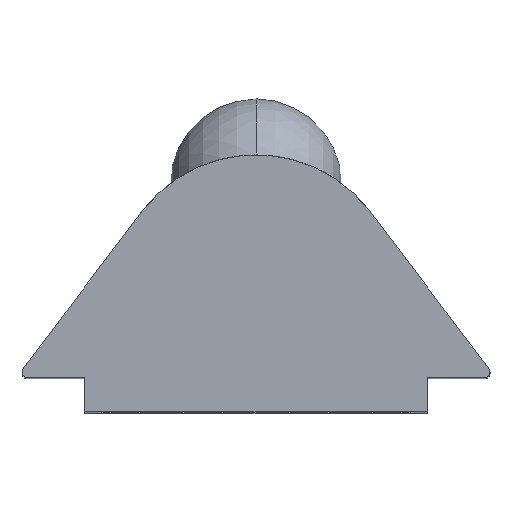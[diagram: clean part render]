
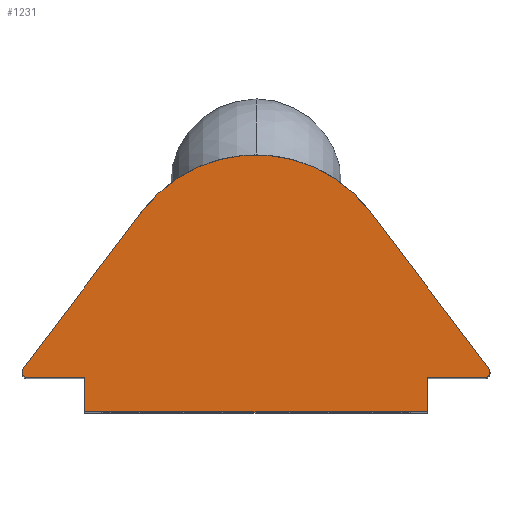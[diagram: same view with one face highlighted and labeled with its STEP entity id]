
A CAD part, top view. The second image highlights one B-rep face of the part: STEP entity #1231.
In plain terms, the highlighted planar face has unit normal (0, 0, 1).
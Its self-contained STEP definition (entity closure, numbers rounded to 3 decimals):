
#14 = CARTESIAN_POINT ( 'NONE',  ( 3.999, 0.7, 6.75 ) ) ;
#20 = VECTOR ( 'NONE', #431, 1000. ) ;
#36 = ORIENTED_EDGE ( 'NONE', *, *, #580, .F. ) ;
#78 = VERTEX_POINT ( 'NONE', #2494 ) ;
#103 = CARTESIAN_POINT ( 'NONE',  ( -2.958, 2.24, 6.75 ) ) ;
#115 = CARTESIAN_POINT ( 'NONE',  ( -3.999, 0.7, 6.75 ) ) ;
#131 = EDGE_CURVE ( 'NONE', #1171, #1182, #438, .T. ) ;
#203 = EDGE_CURVE ( 'NONE', #661, #693, #1131, .T. ) ;
#208 = DIRECTION ( 'NONE',  ( 1., 0., 0. ) ) ;
#234 = DIRECTION ( 'NONE',  ( 1., 0., 0. ) ) ;
#275 = VERTEX_POINT ( 'NONE', #1570 ) ;
#431 = DIRECTION ( 'NONE',  ( -1., 0., 0. ) ) ;
#433 = AXIS2_PLACEMENT_3D ( 'NONE', #1756, #714, #464 ) ;
#438 = LINE ( 'NONE', #2130, #1039 ) ;
#459 = DIRECTION ( 'NONE',  ( 1., 0., 0. ) ) ;
#464 = DIRECTION ( 'NONE',  ( 1., 0., 0. ) ) ;
#473 = DIRECTION ( 'NONE',  ( 0., 0., 1. ) ) ;
#526 = CARTESIAN_POINT ( 'NONE',  ( 3., 0., 6.75 ) ) ;
#531 = DIRECTION ( 'NONE',  ( 0., 1., 0. ) ) ;
#535 = LINE ( 'NONE', #1598, #2722 ) ;
#545 = DIRECTION ( 'NONE',  ( 1., 0., 0. ) ) ;
#557 = CARTESIAN_POINT ( 'NONE',  ( -3., 0., 6.75 ) ) ;
#567 = VECTOR ( 'NONE', #531, 1000. ) ;
#580 = EDGE_CURVE ( 'NONE', #1171, #2307, #1899, .T. ) ;
#592 = VERTEX_POINT ( 'NONE', #2515 ) ;
#631 = ORIENTED_EDGE ( 'NONE', *, *, #131, .T. ) ;
#661 = VERTEX_POINT ( 'NONE', #946 ) ;
#693 = VERTEX_POINT ( 'NONE', #1313 ) ;
#701 = CARTESIAN_POINT ( 'NONE',  ( 0., 0.6, 6.75 ) ) ;
#714 = DIRECTION ( 'NONE',  ( 0., 0., 1. ) ) ;
#785 = LINE ( 'NONE', #701, #20 ) ;
#806 = CARTESIAN_POINT ( 'NONE',  ( -3.999, 0.6, 6.75 ) ) ;
#816 = LINE ( 'NONE', #2666, #567 ) ;
#877 = VERTEX_POINT ( 'NONE', #2038 ) ;
#887 = EDGE_CURVE ( 'NONE', #2307, #78, #816, .T. ) ;
#905 = AXIS2_PLACEMENT_3D ( 'NONE', #14, #473, #234 ) ;
#908 = ORIENTED_EDGE ( 'NONE', *, *, #1493, .T. ) ;
#920 = VECTOR ( 'NONE', #1398, 1000. ) ;
#946 = CARTESIAN_POINT ( 'NONE',  ( 3.999, 0.6, 6.75 ) ) ;
#958 = PLANE ( 'NONE',  #2145 ) ;
#981 = EDGE_CURVE ( 'NONE', #693, #592, #535, .T. ) ;
#1039 = VECTOR ( 'NONE', #2303, 1000. ) ;
#1058 = DIRECTION ( 'NONE',  ( -1., 0., 0. ) ) ;
#1066 = EDGE_CURVE ( 'NONE', #1182, #661, #2138, .T. ) ;
#1116 = VECTOR ( 'NONE', #1058, 1000. ) ;
#1120 = CARTESIAN_POINT ( 'NONE',  ( 0., 0.6, 6.75 ) ) ;
#1121 = LINE ( 'NONE', #103, #920 ) ;
#1131 = CIRCLE ( 'NONE', #905, 0.1 ) ;
#1171 = VERTEX_POINT ( 'NONE', #526 ) ;
#1182 = VERTEX_POINT ( 'NONE', #1409 ) ;
#1214 = EDGE_CURVE ( 'NONE', #877, #275, #1121, .T. ) ;
#1231 = ADVANCED_FACE ( 'NONE', ( #1451 ), #958, .T. ) ;
#1265 = CARTESIAN_POINT ( 'NONE',  ( 0., 0., 6.75 ) ) ;
#1284 = DIRECTION ( 'NONE',  ( 0., 0., 1. ) ) ;
#1313 = CARTESIAN_POINT ( 'NONE',  ( 4.079, 0.76, 6.75 ) ) ;
#1351 = CIRCLE ( 'NONE', #2390, 2.509 ) ;
#1380 = DIRECTION ( 'NONE',  ( 0., 0., 1. ) ) ;
#1398 = DIRECTION ( 'NONE',  ( 0.604, 0.797, 0. ) ) ;
#1405 = DIRECTION ( 'NONE',  ( -0.604, 0.797, 0. ) ) ;
#1409 = CARTESIAN_POINT ( 'NONE',  ( 3., 0.6, 6.75 ) ) ;
#1451 = FACE_OUTER_BOUND ( 'NONE', #2191, .T. ) ;
#1466 = VERTEX_POINT ( 'NONE', #1551 ) ;
#1493 = EDGE_CURVE ( 'NONE', #1466, #2557, #1917, .T. ) ;
#1496 = ORIENTED_EDGE ( 'NONE', *, *, #981, .T. ) ;
#1551 = CARTESIAN_POINT ( 'NONE',  ( -4.099, 0.7, 6.75 ) ) ;
#1570 = CARTESIAN_POINT ( 'NONE',  ( -2., 3.506, 6.75 ) ) ;
#1598 = CARTESIAN_POINT ( 'NONE',  ( 2.958, 2.24, 6.75 ) ) ;
#1605 = DIRECTION ( 'NONE',  ( 1., 0., 0. ) ) ;
#1624 = DIRECTION ( 'NONE',  ( 0., 0., 1. ) ) ;
#1639 = ORIENTED_EDGE ( 'NONE', *, *, #887, .F. ) ;
#1705 = ORIENTED_EDGE ( 'NONE', *, *, #2298, .T. ) ;
#1709 = CIRCLE ( 'NONE', #1891, 0.1 ) ;
#1750 = EDGE_CURVE ( 'NONE', #78, #2557, #785, .T. ) ;
#1756 = CARTESIAN_POINT ( 'NONE',  ( -3.999, 0.7, 6.75 ) ) ;
#1814 = VECTOR ( 'NONE', #459, 1000. ) ;
#1874 = ORIENTED_EDGE ( 'NONE', *, *, #203, .T. ) ;
#1891 = AXIS2_PLACEMENT_3D ( 'NONE', #115, #1624, #1605 ) ;
#1899 = LINE ( 'NONE', #1265, #1116 ) ;
#1917 = CIRCLE ( 'NONE', #433, 0.1 ) ;
#2038 = CARTESIAN_POINT ( 'NONE',  ( -4.079, 0.76, 6.75 ) ) ;
#2067 = ORIENTED_EDGE ( 'NONE', *, *, #1214, .F. ) ;
#2100 = CARTESIAN_POINT ( 'NONE',  ( 0., 1.991, 6.75 ) ) ;
#2130 = CARTESIAN_POINT ( 'NONE',  ( 3., 0., 6.75 ) ) ;
#2138 = LINE ( 'NONE', #1120, #1814 ) ;
#2145 = AXIS2_PLACEMENT_3D ( 'NONE', #2632, #1380, #545 ) ;
#2191 = EDGE_LOOP ( 'NONE', ( #2067, #1705, #908, #2455, #1639, #36, #631, #2493, #1874, #1496, #2345 ) ) ;
#2298 = EDGE_CURVE ( 'NONE', #877, #1466, #1709, .T. ) ;
#2303 = DIRECTION ( 'NONE',  ( 0., 1., 0. ) ) ;
#2307 = VERTEX_POINT ( 'NONE', #557 ) ;
#2345 = ORIENTED_EDGE ( 'NONE', *, *, #2615, .T. ) ;
#2390 = AXIS2_PLACEMENT_3D ( 'NONE', #2100, #1284, #208 ) ;
#2455 = ORIENTED_EDGE ( 'NONE', *, *, #1750, .F. ) ;
#2493 = ORIENTED_EDGE ( 'NONE', *, *, #1066, .T. ) ;
#2494 = CARTESIAN_POINT ( 'NONE',  ( -3., 0.6, 6.75 ) ) ;
#2515 = CARTESIAN_POINT ( 'NONE',  ( 2., 3.506, 6.75 ) ) ;
#2557 = VERTEX_POINT ( 'NONE', #806 ) ;
#2615 = EDGE_CURVE ( 'NONE', #592, #275, #1351, .T. ) ;
#2632 = CARTESIAN_POINT ( 'NONE',  ( 0., 0., 6.75 ) ) ;
#2666 = CARTESIAN_POINT ( 'NONE',  ( -3., 0., 6.75 ) ) ;
#2722 = VECTOR ( 'NONE', #1405, 1000. ) ;
